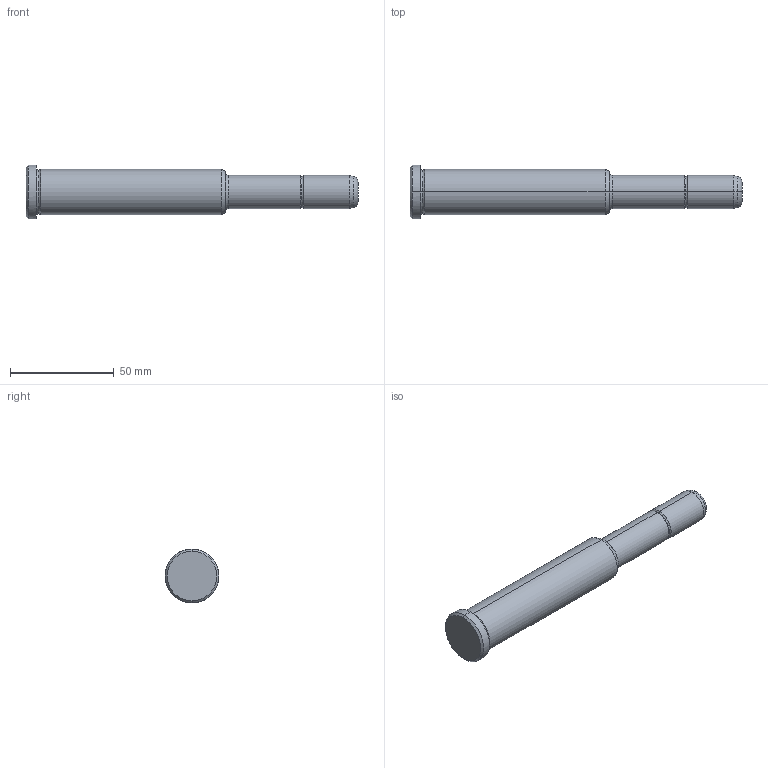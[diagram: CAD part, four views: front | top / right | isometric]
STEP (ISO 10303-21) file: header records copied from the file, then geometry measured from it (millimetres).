
FILE_DESCRIPTION(('CATIA V5 STEP Exchange'),'2;1');
FILE_NAME('C:\Users\Utente\Desktop\IO LAVORO\3D X SITO CF\X SITO\PLASTICA\351\351-16X96X160.stp','2021-08-18T12:43:56+00:00',('none'),('none'),'CATIA Version 5 Release 20 GA (IN-10)','CATIA V5 STEP AP203','none');
FILE_SCHEMA(('CONFIG_CONTROL_DESIGN'));
Length unit declared in the file: millimetre
Products named in the file (1): 351-16X96X160
Bounding box: 160 x 26 x 26 mm (x, y, z)
Volume: 49803.1 mm3; surface area: 10779.9 mm2
Topology: 1 solids, 1 shells, 30 faces, 86 edges, 60 vertices
Faces by surface type: torus 12, cylinder 8, cone 6, plane 4
Entity records: 1112 total; most frequent: CARTESIAN_POINT 289, ORIENTED_EDGE 172, DIRECTION 138, AXIS2_PLACEMENT_3D 95, EDGE_CURVE 86, CIRCLE 64, VERTEX_POINT 60, EDGE_LOOP 32
